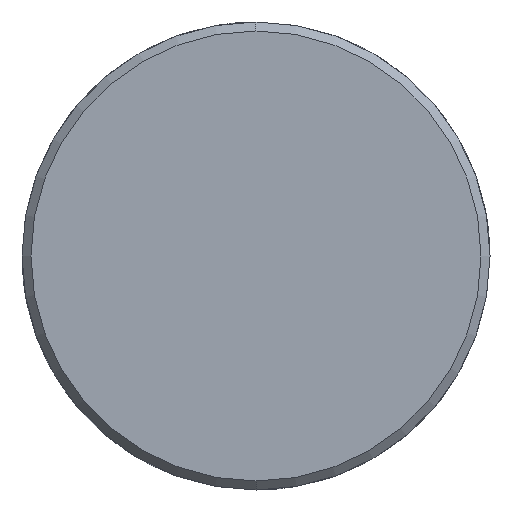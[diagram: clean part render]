
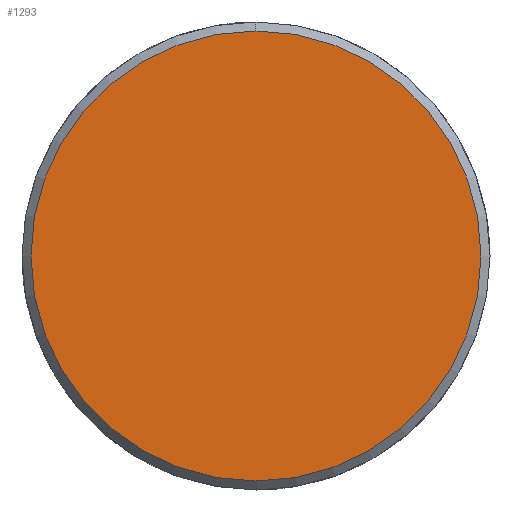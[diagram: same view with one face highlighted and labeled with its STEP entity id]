
A CAD part, left-side view. The second image highlights one B-rep face of the part: STEP entity #1293.
In plain terms, the highlighted planar face has unit normal (-1, 0, 0).
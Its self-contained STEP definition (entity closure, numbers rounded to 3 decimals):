
#1225=CARTESIAN_POINT('Vertex',(-8.,0.,-25.)) ;
#1228=CARTESIAN_POINT('Axis2P3D Location',(-8.,0.,0.)) ;
#1232=CARTESIAN_POINT('Vertex',(-8.,25.,0.)) ;
#1235=CARTESIAN_POINT('Axis2P3D Location',(-8.,0.,0.)) ;
#1239=CARTESIAN_POINT('Vertex',(-8.,0.,25.)) ;
#1261=CARTESIAN_POINT('Axis2P3D Location',(-8.,0.,0.)) ;
#1265=CARTESIAN_POINT('Vertex',(-8.,-25.,0.)) ;
#1268=CARTESIAN_POINT('Axis2P3D Location',(-8.,0.,0.)) ;
#1282=CARTESIAN_POINT('Axis2P3D Location',(-8.,0.,0.)) ;
#1229=DIRECTION('Axis2P3D Direction',(1.,0.,-0.)) ;
#1236=DIRECTION('Axis2P3D Direction',(1.,0.,-0.)) ;
#1262=DIRECTION('Axis2P3D Direction',(1.,0.,-0.)) ;
#1269=DIRECTION('Axis2P3D Direction',(1.,0.,-0.)) ;
#1283=DIRECTION('Axis2P3D Direction',(1.,0.,-0.)) ;
#1284=DIRECTION('Axis2P3D XDirection',(-0.,0.,-1.)) ;
#1230=AXIS2_PLACEMENT_3D('Circle Axis2P3D',#1228,#1229,$) ;
#1237=AXIS2_PLACEMENT_3D('Circle Axis2P3D',#1235,#1236,$) ;
#1263=AXIS2_PLACEMENT_3D('Circle Axis2P3D',#1261,#1262,$) ;
#1270=AXIS2_PLACEMENT_3D('Circle Axis2P3D',#1268,#1269,$) ;
#1285=AXIS2_PLACEMENT_3D('Plane Axis2P3D',#1282,#1283,#1284) ;
#1288=ORIENTED_EDGE('',*,*,#1234,.F.) ;
#1289=ORIENTED_EDGE('',*,*,#1272,.F.) ;
#1290=ORIENTED_EDGE('',*,*,#1267,.F.) ;
#1291=ORIENTED_EDGE('',*,*,#1241,.F.) ;
#1293=ADVANCED_FACE('351-40X116X280',(#1292),#1286,.F.) ;
#1231=CIRCLE('generated circle',#1230,25.) ;
#1238=CIRCLE('generated circle',#1237,25.) ;
#1264=CIRCLE('generated circle',#1263,25.) ;
#1271=CIRCLE('generated circle',#1270,25.) ;
#1234=EDGE_CURVE('',#1226,#1233,#1231,.T.) ;
#1241=EDGE_CURVE('',#1233,#1240,#1238,.T.) ;
#1267=EDGE_CURVE('',#1240,#1266,#1264,.T.) ;
#1272=EDGE_CURVE('',#1266,#1226,#1271,.T.) ;
#1287=EDGE_LOOP('',(#1288,#1289,#1290,#1291)) ;
#1292=FACE_OUTER_BOUND('',#1287,.T.) ;
#1286=PLANE('Plane',#1285) ;
#1226=VERTEX_POINT('',#1225) ;
#1233=VERTEX_POINT('',#1232) ;
#1240=VERTEX_POINT('',#1239) ;
#1266=VERTEX_POINT('',#1265) ;
